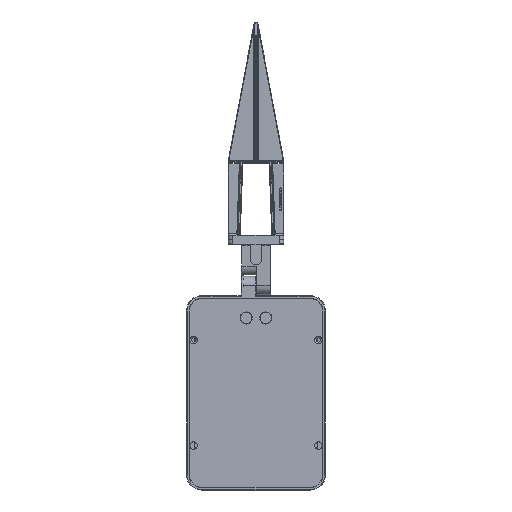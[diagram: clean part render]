
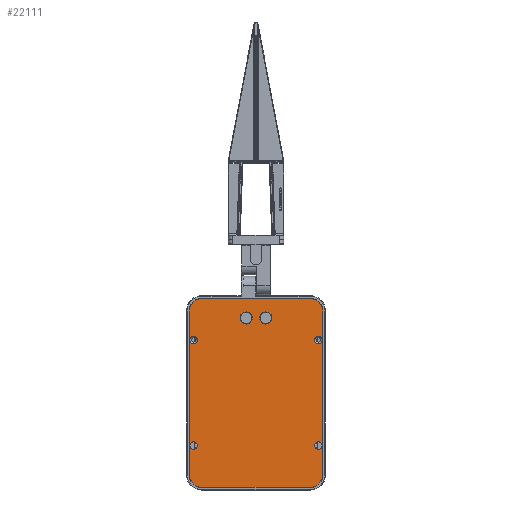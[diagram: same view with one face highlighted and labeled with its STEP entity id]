
A CAD part, front view. The second image highlights one B-rep face of the part: STEP entity #22111.
In plain terms, the highlighted planar face has unit normal (0, -1, 0).
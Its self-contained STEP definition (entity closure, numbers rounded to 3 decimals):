
#9533=CARTESIAN_POINT('',(67.5,0.5,57.));
#9534=DIRECTION('',(0.,-1.,0.));
#9535=DIRECTION('',(1.,0.,0.));
#9536=AXIS2_PLACEMENT_3D('',#9533,#9534,#9535);
#9538=CARTESIAN_POINT('',(67.5,0.5,57.));
#9539=DIRECTION('',(0.,-1.,0.));
#9540=DIRECTION('',(-1.,0.,0.));
#9541=AXIS2_PLACEMENT_3D('',#9538,#9539,#9540);
#9543=CARTESIAN_POINT('',(-67.5,0.5,-57.));
#9544=DIRECTION('',(0.,-1.,0.));
#9545=DIRECTION('',(-1.,0.,0.));
#9546=AXIS2_PLACEMENT_3D('',#9543,#9544,#9545);
#9548=CARTESIAN_POINT('',(-67.5,0.5,-57.));
#9549=DIRECTION('',(0.,-1.,0.));
#9550=DIRECTION('',(1.,0.,0.));
#9551=AXIS2_PLACEMENT_3D('',#9548,#9549,#9550);
#9553=CARTESIAN_POINT('',(-67.5,0.5,57.));
#9554=DIRECTION('',(0.,-1.,0.));
#9555=DIRECTION('',(1.,0.,0.));
#9556=AXIS2_PLACEMENT_3D('',#9553,#9554,#9555);
#9558=CARTESIAN_POINT('',(-67.5,0.5,57.));
#9559=DIRECTION('',(0.,1.,0.));
#9560=DIRECTION('',(1.,0.,0.));
#9561=AXIS2_PLACEMENT_3D('',#9558,#9559,#9560);
#9563=CARTESIAN_POINT('',(67.5,0.5,-57.));
#9564=DIRECTION('',(0.,-1.,0.));
#9565=DIRECTION('',(-1.,0.,0.));
#9566=AXIS2_PLACEMENT_3D('',#9563,#9564,#9565);
#9568=CARTESIAN_POINT('',(67.5,0.5,-57.));
#9569=DIRECTION('',(0.,-1.,0.));
#9570=DIRECTION('',(1.,0.,0.));
#9571=AXIS2_PLACEMENT_3D('',#9568,#9569,#9570);
#9573=CARTESIAN_POINT('',(58.5,0.5,-88.5));
#9574=DIRECTION('',(0.,1.,0.));
#9575=DIRECTION('',(1.,0.,0.));
#9576=AXIS2_PLACEMENT_3D('',#9573,#9574,#9575);
#9578=DIRECTION('',(-1.,0.,0.));
#9579=VECTOR('',#9578,117.);
#9580=CARTESIAN_POINT('',(58.5,0.5,-102.));
#9581=LINE('',#9580,#9579);
#9582=CARTESIAN_POINT('',(-58.5,0.5,-88.5));
#9583=DIRECTION('',(0.,1.,0.));
#9584=DIRECTION('',(0.,0.,-1.));
#9585=AXIS2_PLACEMENT_3D('',#9582,#9583,#9584);
#9587=DIRECTION('',(0.,0.,1.));
#9588=VECTOR('',#9587,177.);
#9589=CARTESIAN_POINT('',(-72.,0.5,-88.5));
#9590=LINE('',#9589,#9588);
#9591=CARTESIAN_POINT('',(-58.5,0.5,88.5));
#9592=DIRECTION('',(0.,1.,0.));
#9593=DIRECTION('',(-1.,0.,0.));
#9594=AXIS2_PLACEMENT_3D('',#9591,#9592,#9593);
#9596=DIRECTION('',(1.,0.,0.));
#9597=VECTOR('',#9596,117.);
#9598=CARTESIAN_POINT('',(-58.5,0.5,102.));
#9599=LINE('',#9598,#9597);
#9600=CARTESIAN_POINT('',(58.5,0.5,88.5));
#9601=DIRECTION('',(0.,1.,0.));
#9602=DIRECTION('',(0.,0.,1.));
#9603=AXIS2_PLACEMENT_3D('',#9600,#9601,#9602);
#9605=DIRECTION('',(0.,0.,-1.));
#9606=VECTOR('',#9605,177.);
#9607=CARTESIAN_POINT('',(72.,0.5,88.5));
#9608=LINE('',#9607,#9606);
#9609=CARTESIAN_POINT('',(-10.65,0.5,81.));
#9610=DIRECTION('',(0.,1.,0.));
#9611=DIRECTION('',(-1.,0.,0.));
#9612=AXIS2_PLACEMENT_3D('',#9609,#9610,#9611);
#9614=CARTESIAN_POINT('',(-10.65,0.5,81.));
#9615=DIRECTION('',(0.,1.,0.));
#9616=DIRECTION('',(1.,0.,0.));
#9617=AXIS2_PLACEMENT_3D('',#9614,#9615,#9616);
#9619=CARTESIAN_POINT('',(10.65,0.5,81.));
#9620=DIRECTION('',(0.,1.,0.));
#9621=DIRECTION('',(-1.,0.,0.));
#9622=AXIS2_PLACEMENT_3D('',#9619,#9620,#9621);
#9624=CARTESIAN_POINT('',(10.65,0.5,81.));
#9625=DIRECTION('',(0.,1.,0.));
#9626=DIRECTION('',(1.,0.,0.));
#9627=AXIS2_PLACEMENT_3D('',#9624,#9625,#9626);
#19344=CARTESIAN_POINT('',(71.55,0.5,57.));
#19345=CARTESIAN_POINT('',(63.45,0.5,57.));
#19346=VERTEX_POINT('',#19344);
#19347=VERTEX_POINT('',#19345);
#19352=CARTESIAN_POINT('',(58.5,0.5,-102.));
#19353=CARTESIAN_POINT('',(72.,0.5,-88.5));
#19354=VERTEX_POINT('',#19352);
#19355=VERTEX_POINT('',#19353);
#19356=CARTESIAN_POINT('',(72.,0.5,88.5));
#19357=VERTEX_POINT('',#19356);
#19358=CARTESIAN_POINT('',(58.5,0.5,102.));
#19359=VERTEX_POINT('',#19358);
#19360=CARTESIAN_POINT('',(-58.5,0.5,102.));
#19361=VERTEX_POINT('',#19360);
#19362=CARTESIAN_POINT('',(-72.,0.5,88.5));
#19363=VERTEX_POINT('',#19362);
#19364=CARTESIAN_POINT('',(-72.,0.5,-88.5));
#19365=VERTEX_POINT('',#19364);
#19366=CARTESIAN_POINT('',(-58.5,0.5,-102.));
#19367=VERTEX_POINT('',#19366);
#19384=CARTESIAN_POINT('',(-71.55,0.5,-57.));
#19385=CARTESIAN_POINT('',(-63.45,0.5,-57.));
#19386=VERTEX_POINT('',#19384);
#19387=VERTEX_POINT('',#19385);
#19392=CARTESIAN_POINT('',(-71.55,0.5,57.));
#19393=VERTEX_POINT('',#19392);
#19394=CARTESIAN_POINT('',(-63.45,0.5,57.));
#19395=VERTEX_POINT('',#19394);
#19396=CARTESIAN_POINT('',(71.55,0.5,-57.));
#19397=CARTESIAN_POINT('',(63.45,0.5,-57.));
#19398=VERTEX_POINT('',#19396);
#19399=VERTEX_POINT('',#19397);
#19683=CARTESIAN_POINT('',(-17.2,0.5,81.));
#19684=CARTESIAN_POINT('',(-4.1,0.5,81.));
#19685=VERTEX_POINT('',#19683);
#19686=VERTEX_POINT('',#19684);
#19691=CARTESIAN_POINT('',(4.1,0.5,81.));
#19692=CARTESIAN_POINT('',(17.2,0.5,81.));
#19693=VERTEX_POINT('',#19691);
#19694=VERTEX_POINT('',#19692);
#22052=CARTESIAN_POINT('',(0.,0.5,0.));
#22053=DIRECTION('',(0.,1.,0.));
#22054=DIRECTION('',(1.,0.,0.));
#22055=AXIS2_PLACEMENT_3D('',#22052,#22053,#22054);
#22056=PLANE('',#22055);
#22058=ORIENTED_EDGE('',*,*,#22057,.T.);
#22060=ORIENTED_EDGE('',*,*,#22059,.T.);
#22062=ORIENTED_EDGE('',*,*,#22061,.T.);
#22064=ORIENTED_EDGE('',*,*,#22063,.T.);
#22066=ORIENTED_EDGE('',*,*,#22065,.T.);
#22068=ORIENTED_EDGE('',*,*,#22067,.T.);
#22070=ORIENTED_EDGE('',*,*,#22069,.T.);
#22072=ORIENTED_EDGE('',*,*,#22071,.T.);
#22073=EDGE_LOOP('',(#22058,#22060,#22062,#22064,#22066,#22068,#22070,#22072));
#22074=FACE_OUTER_BOUND('',#22073,.F.);
#22076=ORIENTED_EDGE('',*,*,#22075,.T.);
#22078=ORIENTED_EDGE('',*,*,#22077,.T.);
#22079=EDGE_LOOP('',(#22076,#22078));
#22080=FACE_BOUND('',#22079,.F.);
#22082=ORIENTED_EDGE('',*,*,#22081,.T.);
#22084=ORIENTED_EDGE('',*,*,#22083,.F.);
#22085=EDGE_LOOP('',(#22082,#22084));
#22086=FACE_BOUND('',#22085,.F.);
#22088=ORIENTED_EDGE('',*,*,#22087,.T.);
#22090=ORIENTED_EDGE('',*,*,#22089,.T.);
#22091=EDGE_LOOP('',(#22088,#22090));
#22092=FACE_BOUND('',#22091,.F.);
#22094=ORIENTED_EDGE('',*,*,#22093,.T.);
#22096=ORIENTED_EDGE('',*,*,#22095,.T.);
#22097=EDGE_LOOP('',(#22094,#22096));
#22098=FACE_BOUND('',#22097,.F.);
#22100=ORIENTED_EDGE('',*,*,#22099,.F.);
#22102=ORIENTED_EDGE('',*,*,#22101,.F.);
#22103=EDGE_LOOP('',(#22100,#22102));
#22104=FACE_BOUND('',#22103,.F.);
#22106=ORIENTED_EDGE('',*,*,#22105,.F.);
#22108=ORIENTED_EDGE('',*,*,#22107,.F.);
#22109=EDGE_LOOP('',(#22106,#22108));
#22110=FACE_BOUND('',#22109,.F.);
#22111=ADVANCED_FACE('',(#22074,#22080,#22086,#22092,#22098,#22104,#22110),
#22056,.F.);
#9537=CIRCLE('',#9536,4.05);
#9542=CIRCLE('',#9541,4.05);
#9547=CIRCLE('',#9546,4.05);
#9552=CIRCLE('',#9551,4.05);
#9557=CIRCLE('',#9556,4.05);
#9562=CIRCLE('',#9561,4.05);
#9567=CIRCLE('',#9566,4.05);
#9572=CIRCLE('',#9571,4.05);
#9577=CIRCLE('',#9576,13.5);
#9586=CIRCLE('',#9585,13.5);
#9595=CIRCLE('',#9594,13.5);
#9604=CIRCLE('',#9603,13.5);
#9613=CIRCLE('',#9612,6.55);
#9618=CIRCLE('',#9617,6.55);
#9623=CIRCLE('',#9622,6.55);
#9628=CIRCLE('',#9627,6.55);
#22057=EDGE_CURVE('',#19355,#19354,#9577,.T.);
#22059=EDGE_CURVE('',#19354,#19367,#9581,.T.);
#22061=EDGE_CURVE('',#19367,#19365,#9586,.T.);
#22063=EDGE_CURVE('',#19365,#19363,#9590,.T.);
#22065=EDGE_CURVE('',#19363,#19361,#9595,.T.);
#22067=EDGE_CURVE('',#19361,#19359,#9599,.T.);
#22069=EDGE_CURVE('',#19359,#19357,#9604,.T.);
#22071=EDGE_CURVE('',#19357,#19355,#9608,.T.);
#22075=EDGE_CURVE('',#19386,#19387,#9547,.T.);
#22077=EDGE_CURVE('',#19387,#19386,#9552,.T.);
#22081=EDGE_CURVE('',#19395,#19393,#9557,.T.);
#22083=EDGE_CURVE('',#19395,#19393,#9562,.T.);
#22087=EDGE_CURVE('',#19399,#19398,#9567,.T.);
#22089=EDGE_CURVE('',#19398,#19399,#9572,.T.);
#22093=EDGE_CURVE('',#19346,#19347,#9537,.T.);
#22095=EDGE_CURVE('',#19347,#19346,#9542,.T.);
#22099=EDGE_CURVE('',#19685,#19686,#9613,.T.);
#22101=EDGE_CURVE('',#19686,#19685,#9618,.T.);
#22105=EDGE_CURVE('',#19693,#19694,#9623,.T.);
#22107=EDGE_CURVE('',#19694,#19693,#9628,.T.);
